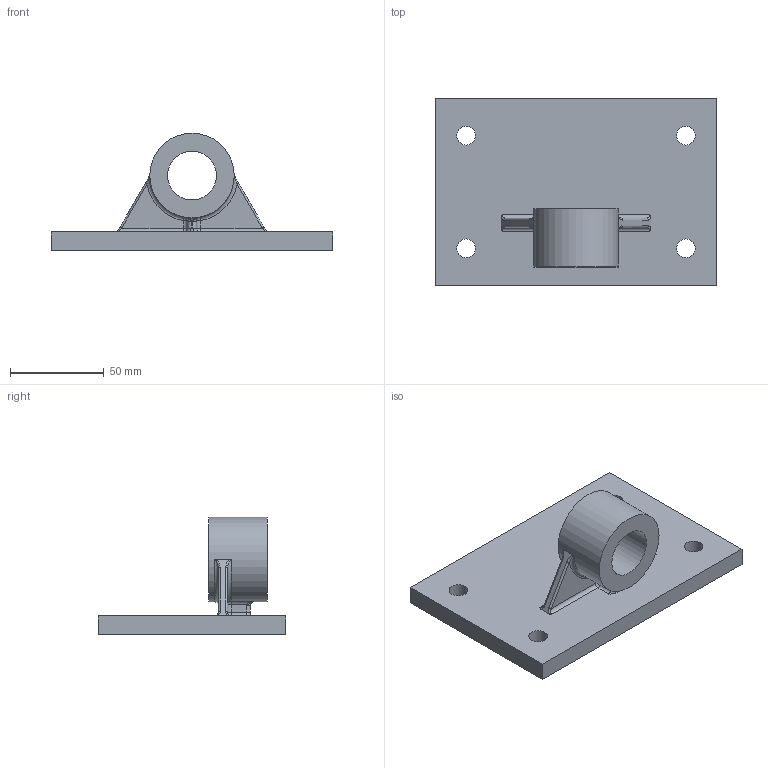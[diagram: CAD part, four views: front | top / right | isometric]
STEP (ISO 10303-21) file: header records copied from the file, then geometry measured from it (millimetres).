
FILE_DESCRIPTION((''),'2;1');
FILE_NAME('D:\PAWEŁ\ZLECENIA\DualSystem\001 Modele\DKAB30_\DK_30_STEP\AT_30.stp','2011-11-27T11:36:07',('Pawe'),(''),'Autodesk Inventor 2009','Autodesk Inventor 2009','');
FILE_SCHEMA(('AUTOMOTIVE_DESIGN { 1 0 10303 214 1 1 1 1 }'));
Length unit declared in the file: millimetre
Products named in the file (1): AT_30
Bounding box: 150 x 100 x 62.5 mm (x, y, z)
Volume: 185785.4 mm3; surface area: 46115.3 mm2
Topology: 1 solids, 1 shells, 59 faces, 142 edges, 82 vertices
Faces by surface type: cylinder 21, bspline 20, plane 16, torus 2
Full cylindrical faces by diameter (mm): 10 x4, 26 x1, 45 x1
Entity records: 2974 total; most frequent: CARTESIAN_POINT 1686, ORIENTED_EDGE 262, DIRECTION 243, EDGE_CURVE 131, AXIS2_PLACEMENT_3D 98, VERTEX_POINT 82, EDGE_LOOP 77, FACE_OUTER_BOUND 59
